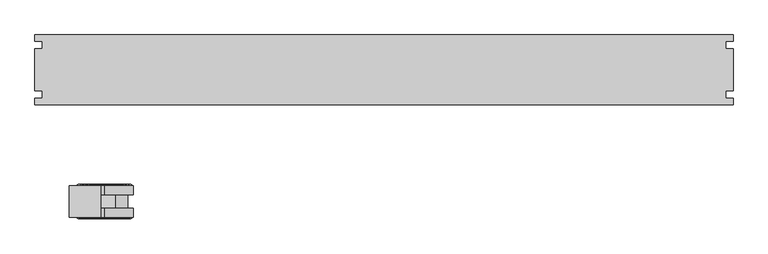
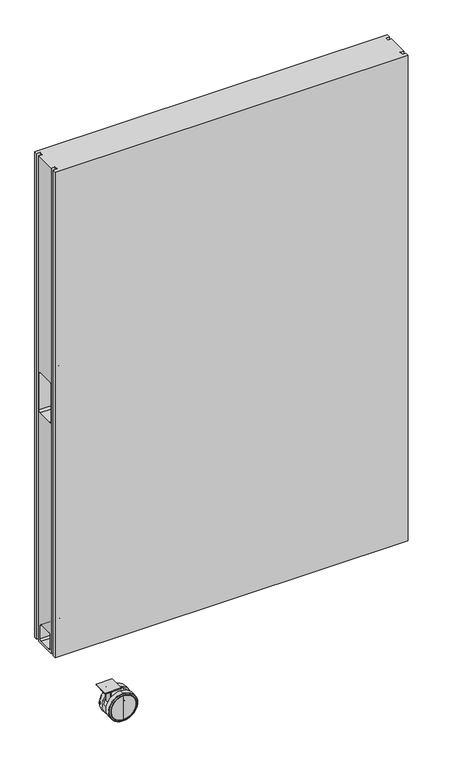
"""IFC4 building model written with IfcOpenShell, lengths in millimetres: furniture geometry, Steelcase Coalesse - Exponents - Storage - Mobile Display Board : Mediaboard."""

from ifc_helpers import new_model, si_unit, point, frame, frame_2d, origin, place, context, project, spatial, polyline, circle_curve, ellipse_curve, trimmed, segment, composite_curve, outline, extrude, source, transform, mapped, element, save
from ifc_brep_helpers import plane_surface, cylinder_surface, revolved_surface, advanced_brep


def furniture_0eeaa3e6(model_context):
    return source(origin(), model_context, "Body", "SolidModel", [
        advanced_brep(
        [(1219.2, 231.2568925, 1928.6982), (0.0, 231.2568925, 1928.6982), (0.0, 219.8268877, 1928.6982), (12.7000004, 219.8268877, 1928.6982), (12.7000004, 207.2716584, 1928.6982), (0.0, 207.2716584, 1928.6982), (0.0, 133.3221024, 1928.6982), (12.7000004, 133.3221024, 1928.6982), (12.7000004, 120.7668731, 1928.6982), (0.0, 120.7668731, 1928.6982), (0.0, 109.3368683, 1928.6982), (1219.2, 109.3368683, 1928.6982), (1219.2, 120.7668731, 1928.6982), (1206.4999996, 120.7668731, 1928.6982), (1206.4999996, 133.3221024, 1928.6982), (1219.2, 133.3221024, 1928.6982), (1219.2, 207.2716584, 1928.6982), (1206.4999996, 207.2716584, 1928.6982), (1206.4999996, 219.8268877, 1928.6982), (1219.2, 219.8268877, 1928.6982), (1219.2, 231.2568925, 155.2702), (1219.2, 219.8268877, 155.2702), (1206.4999996, 219.8268877, 155.2702), (1206.4999996, 207.2716584, 155.2702), (1219.2, 207.2716584, 155.2702), (1219.2, 133.3221024, 155.2702), (1206.4999996, 133.3221024, 155.2702), (1206.4999996, 120.7668731, 155.2702), (1219.2, 120.7668731, 155.2702), (1219.2, 109.3368683, 155.2702), (0.0, 109.3368683, 155.2702), (0.0, 120.7668731, 155.2702), (12.7000004, 120.7668731, 155.2702), (12.7000004, 133.3221024, 155.2702), (0.0, 133.3221024, 155.2702), (0.0, 207.2716584, 155.2702), (12.7000004, 207.2716584, 155.2702), (12.7000004, 219.8268877, 155.2702), (0.0, 219.8268877, 155.2702), (0.0, 231.2568925, 155.2702), (0.0, 198.8718925, 1140.9828993), (0.0, 141.7219046, 1140.9828993), (0.0, 135.3719046, 1134.6328993), (0.0, 135.3719046, 1001.2829477), (0.0, 141.7219046, 994.9329477), (0.0, 198.8718925, 994.9329477), (0.0, 205.2218925, 1001.2829477), (0.0, 205.2218925, 1134.6328993), (0.0, 198.9415891, 216.4334037), (0.0, 192.5915891, 222.7834037), (0.0, 147.5065806, 222.7834037), (0.0, 141.1565806, 216.4334037), (0.0, 141.1565806, 170.3832), (0.0, 147.5065806, 164.0332), (0.0, 192.5915891, 164.0332), (0.0, 198.9415891, 170.3832), (1219.2, 141.7219046, 1140.9828993), (1219.2, 198.8718925, 1140.9828993), (1219.2, 205.2218925, 1134.6328993), (1219.2, 205.2218925, 1001.2829477), (1219.2, 198.8718925, 994.9329477), (1219.2, 141.7219046, 994.9329477), (1219.2, 135.3719046, 1001.2829477), (1219.2, 135.3719046, 1134.6328993), (1219.2, 192.5915891, 222.7834037), (1219.2, 198.9415891, 216.4334037), (1219.2, 198.9415891, 170.3832), (1219.2, 192.5915891, 164.0332), (1219.2, 147.5065806, 164.0332), (1219.2, 141.1565806, 170.3832), (1219.2, 141.1565806, 216.4334037), (1219.2, 147.5065806, 222.7834037), (1149.35, 141.7219046, 1140.9828993), (1149.35, 135.3719046, 1134.6328993), (1149.35, 135.3719046, 1001.2829477), (1149.35, 141.7219046, 994.9329477), (1149.35, 198.8718925, 994.9329477), (1149.35, 205.2218925, 1001.2829477), (1149.35, 205.2218925, 1134.6328993), (1149.35, 198.8718925, 1140.9828993), (1149.35, 192.5915891, 222.7834037), (1149.35, 147.5065806, 222.7834037), (1149.35, 141.1565806, 216.4334037), (1149.35, 141.1565806, 170.3832), (1149.35, 147.5065806, 164.0332), (1149.35, 192.5915891, 164.0332), (1149.35, 198.9415891, 170.3832), (1149.35, 198.9415891, 216.4334037), (69.85, 141.7219046, 1140.9828993), (69.85, 198.8718925, 1140.9828993), (69.85, 205.2218925, 1134.6328993), (69.85, 205.2218925, 1001.2829477), (69.85, 198.8718925, 994.9329477), (69.85, 141.7219046, 994.9329477), (69.85, 135.3719046, 1001.2829477), (69.85, 135.3719046, 1134.6328993), (69.85, 192.5915891, 222.7834037), (69.85, 198.9415891, 216.4334037), (69.85, 198.9415891, 170.3832), (69.85, 192.5915891, 164.0332), (69.85, 147.5065806, 164.0332), (69.85, 141.1565806, 170.3832), (69.85, 141.1565806, 216.4334037), (69.85, 147.5065806, 222.7834037)],
        [
            (0, 1),
            (1, 2),
            (2, 3),
            (3, 4),
            (4, 5),
            (5, 6),
            (6, 7),
            (7, 8),
            (8, 9),
            (9, 10),
            (10, 11),
            (11, 12),
            (12, 13),
            (13, 14),
            (14, 15),
            (15, 16),
            (16, 17),
            (17, 18),
            (18, 19),
            (19, 0),
            (20, 21),
            (21, 22),
            (22, 23),
            (23, 24),
            (24, 25),
            (25, 26),
            (26, 27),
            (27, 28),
            (28, 29),
            (29, 30),
            (30, 31),
            (31, 32),
            (32, 33),
            (33, 34),
            (34, 35),
            (35, 36),
            (36, 37),
            (37, 38),
            (38, 39),
            (39, 20),
            (0, 20),
            (39, 1),
            (38, 2),
            (37, 3),
            (36, 4),
            (35, 5),
            (34, 6),
            (40, 41),
            (41, 42, circle_curve(frame((0.0, 141.7219046, 1134.6328993), z_axis=(1.0, 0.0, 0.0), x_axis=(0.0, 1.0, 0.0)), 6.35)),
            (42, 43),
            (43, 44, circle_curve(frame((0.0, 141.7219046, 1001.2829477), z_axis=(1.0, 0.0, 0.0), x_axis=(0.0, 1.0, 0.0)), 6.35)),
            (44, 45),
            (45, 46, circle_curve(frame((0.0, 198.8718925, 1001.2829477), z_axis=(1.0, 0.0, 0.0), x_axis=(0.0, 1.0, 0.0)), 6.35)),
            (46, 47),
            (47, 40, circle_curve(frame((0.0, 198.8718925, 1134.6328993), z_axis=(1.0, 0.0, 0.0), x_axis=(0.0, 1.0, 0.0)), 6.35)),
            (48, 49, circle_curve(frame((0.0, 192.5915891, 216.4334037), z_axis=(1.0, 0.0, 0.0), x_axis=(0.0, 1.0, 0.0)), 6.35)),
            (49, 50),
            (50, 51, circle_curve(frame((0.0, 147.5065806, 216.4334037), z_axis=(1.0, 0.0, 0.0), x_axis=(0.0, 1.0, 0.0)), 6.35)),
            (51, 52),
            (52, 53, circle_curve(frame((0.0, 147.5065806, 170.3832), z_axis=(1.0, 0.0, 0.0), x_axis=(0.0, 1.0, 0.0)), 6.35)),
            (53, 54),
            (54, 55, circle_curve(frame((0.0, 192.5915891, 170.3832), z_axis=(1.0, 0.0, 0.0), x_axis=(0.0, 1.0, 0.0)), 6.35)),
            (55, 48),
            (33, 7),
            (32, 8),
            (31, 9),
            (30, 10),
            (29, 11),
            (28, 12),
            (27, 13),
            (26, 14),
            (25, 15),
            (24, 16),
            (56, 57),
            (57, 58, circle_curve(frame((1219.2, 198.8718925, 1134.6328993), z_axis=(-1.0, 0.0, 0.0), x_axis=(0.0, 1.0, 0.0)), 6.35)),
            (58, 59),
            (59, 60, circle_curve(frame((1219.2, 198.8718925, 1001.2829477), z_axis=(-1.0, 0.0, 0.0), x_axis=(0.0, 1.0, 0.0)), 6.35)),
            (60, 61),
            (61, 62, circle_curve(frame((1219.2, 141.7219046, 1001.2829477), z_axis=(-1.0, 0.0, 0.0), x_axis=(0.0, 1.0, 0.0)), 6.35)),
            (62, 63),
            (63, 56, circle_curve(frame((1219.2, 141.7219046, 1134.6328993), z_axis=(-1.0, 0.0, 0.0), x_axis=(0.0, 1.0, 0.0)), 6.35)),
            (64, 65, circle_curve(frame((1219.2, 192.5915891, 216.4334037), z_axis=(-1.0, 0.0, 0.0), x_axis=(0.0, 1.0, 0.0)), 6.35)),
            (65, 66),
            (66, 67, circle_curve(frame((1219.2, 192.5915891, 170.3832), z_axis=(-1.0, 0.0, 0.0), x_axis=(0.0, 1.0, 0.0)), 6.35)),
            (67, 68),
            (68, 69, circle_curve(frame((1219.2, 147.5065806, 170.3832), z_axis=(-1.0, 0.0, 0.0), x_axis=(0.0, 1.0, 0.0)), 6.35)),
            (69, 70),
            (70, 71, circle_curve(frame((1219.2, 147.5065806, 216.4334037), z_axis=(-1.0, 0.0, 0.0), x_axis=(0.0, 1.0, 0.0)), 6.35)),
            (71, 64),
            (23, 17),
            (22, 18),
            (21, 19),
            (72, 73, circle_curve(frame((1149.35, 141.7219046, 1134.6328993), z_axis=(1.0, 0.0, 0.0), x_axis=(0.0, 1.0, 0.0)), 6.35)),
            (73, 74),
            (74, 75, circle_curve(frame((1149.35, 141.7219046, 1001.2829477), z_axis=(1.0, 0.0, 0.0), x_axis=(0.0, 1.0, 0.0)), 6.35)),
            (75, 76),
            (76, 77, circle_curve(frame((1149.35, 198.8718925, 1001.2829477), z_axis=(1.0, 0.0, 0.0), x_axis=(0.0, 1.0, 0.0)), 6.35)),
            (77, 78),
            (78, 79, circle_curve(frame((1149.35, 198.8718925, 1134.6328993), z_axis=(1.0, 0.0, 0.0), x_axis=(0.0, 1.0, 0.0)), 6.35)),
            (79, 72),
            (80, 81),
            (81, 82, circle_curve(frame((1149.35, 147.5065806, 216.4334037), z_axis=(1.0, 0.0, 0.0), x_axis=(0.0, 1.0, 0.0)), 6.35)),
            (82, 83),
            (83, 84, circle_curve(frame((1149.35, 147.5065806, 170.3832), z_axis=(1.0, 0.0, 0.0), x_axis=(0.0, 1.0, 0.0)), 6.35)),
            (84, 85),
            (85, 86, circle_curve(frame((1149.35, 192.5915891, 170.3832), z_axis=(1.0, 0.0, 0.0), x_axis=(0.0, 1.0, 0.0)), 6.35)),
            (86, 87),
            (87, 80, circle_curve(frame((1149.35, 192.5915891, 216.4334037), z_axis=(1.0, 0.0, 0.0), x_axis=(0.0, 1.0, 0.0)), 6.35)),
            (79, 57),
            (56, 72),
            (78, 58),
            (77, 59),
            (76, 60),
            (75, 61),
            (74, 62),
            (73, 63),
            (87, 65),
            (64, 80),
            (86, 66),
            (85, 67),
            (84, 68),
            (83, 69),
            (82, 70),
            (81, 71),
            (88, 89),
            (89, 90, circle_curve(frame((69.85, 198.8718925, 1134.6328993), z_axis=(-1.0, 0.0, 0.0), x_axis=(0.0, 1.0, 0.0)), 6.35)),
            (90, 91),
            (91, 92, circle_curve(frame((69.85, 198.8718925, 1001.2829477), z_axis=(-1.0, 0.0, 0.0), x_axis=(0.0, 1.0, 0.0)), 6.35)),
            (92, 93),
            (93, 94, circle_curve(frame((69.85, 141.7219046, 1001.2829477), z_axis=(-1.0, 0.0, 0.0), x_axis=(0.0, 1.0, 0.0)), 6.35)),
            (94, 95),
            (95, 88, circle_curve(frame((69.85, 141.7219046, 1134.6328993), z_axis=(-1.0, 0.0, 0.0), x_axis=(0.0, 1.0, 0.0)), 6.35)),
            (96, 97, circle_curve(frame((69.85, 192.5915891, 216.4334037), z_axis=(-1.0, 0.0, 0.0), x_axis=(0.0, 1.0, 0.0)), 6.35)),
            (97, 98),
            (98, 99, circle_curve(frame((69.85, 192.5915891, 170.3832), z_axis=(-1.0, 0.0, 0.0), x_axis=(0.0, 1.0, 0.0)), 6.35)),
            (99, 100),
            (100, 101, circle_curve(frame((69.85, 147.5065806, 170.3832), z_axis=(-1.0, 0.0, 0.0), x_axis=(0.0, 1.0, 0.0)), 6.35)),
            (101, 102),
            (102, 103, circle_curve(frame((69.85, 147.5065806, 216.4334037), z_axis=(-1.0, 0.0, 0.0), x_axis=(0.0, 1.0, 0.0)), 6.35)),
            (103, 96),
            (95, 42),
            (41, 88),
            (94, 43),
            (93, 44),
            (92, 45),
            (91, 46),
            (90, 47),
            (89, 40),
            (103, 50),
            (49, 96),
            (102, 51),
            (101, 52),
            (100, 53),
            (99, 54),
            (98, 55),
            (97, 48),
        ],
        [
            plane_surface(frame((0.0, 231.2568925, 1928.6982), z_axis=(0.0, 0.0, 1.0), x_axis=(-1.0, 0.0, 0.0))),
            plane_surface(frame((0.0, 231.2568925, 155.2702), z_axis=(0.0, 0.0, -1.0), x_axis=(1.0, 0.0, 0.0))),
            plane_surface(frame((1219.2, 231.2568925, 1928.6982), z_axis=(0.0, 1.0, 0.0), x_axis=(0.0, 0.0, -1.0))),
            plane_surface(frame((0.0, 231.2568925, 1928.6982), z_axis=(-1.0, 0.0, 0.0), x_axis=(0.0, 0.0, -1.0))),
            plane_surface(frame((0.0, 219.8268877, 1928.6982), z_axis=(0.0, -1.0, 0.0), x_axis=(0.0, 0.0, -1.0))),
            plane_surface(frame((12.7000004, 219.8268877, 1928.6982), z_axis=(-1.0, 0.0, 0.0), x_axis=(0.0, 0.0, -1.0))),
            plane_surface(frame((12.7000004, 207.2716584, 1928.6982), z_axis=(0.0, 1.0, 0.0), x_axis=(0.0, 0.0, -1.0))),
            plane_surface(frame((0.0, 207.2716584, 1928.6982), z_axis=(-1.0, 0.0, 0.0), x_axis=(0.0, 0.0, -1.0))),
            plane_surface(frame((0.0, 133.3221024, 1928.6982), z_axis=(0.0, -1.0, 0.0), x_axis=(0.0, 0.0, -1.0))),
            plane_surface(frame((12.7000004, 133.3221024, 1928.6982), z_axis=(-1.0, 0.0, 0.0), x_axis=(0.0, 0.0, -1.0))),
            plane_surface(frame((12.7000004, 120.7668731, 1928.6982), z_axis=(0.0, 1.0, 0.0), x_axis=(0.0, 0.0, -1.0))),
            plane_surface(frame((0.0, 120.7668731, 1928.6982), z_axis=(-1.0, 0.0, 0.0), x_axis=(0.0, 0.0, -1.0))),
            plane_surface(frame((0.0, 109.3368683, 1928.6982), z_axis=(0.0, -1.0, 0.0), x_axis=(0.0, 0.0, -1.0))),
            plane_surface(frame((1219.2, 109.3368683, 1928.6982), z_axis=(1.0, 0.0, 0.0), x_axis=(0.0, 0.0, -1.0))),
            plane_surface(frame((1219.2, 120.7668731, 1928.6982), z_axis=(0.0, 1.0, 0.0), x_axis=(0.0, 0.0, -1.0))),
            plane_surface(frame((1206.4999996, 120.7668731, 1928.6982), z_axis=(1.0, 0.0, 0.0), x_axis=(0.0, 0.0, -1.0))),
            plane_surface(frame((1206.4999996, 133.3221024, 1928.6982), z_axis=(0.0, -1.0, 0.0), x_axis=(0.0, 0.0, -1.0))),
            plane_surface(frame((1219.2, 133.3221024, 1928.6982), z_axis=(1.0, 0.0, 0.0), x_axis=(0.0, 0.0, -1.0))),
            plane_surface(frame((1219.2, 207.2716584, 1928.6982), z_axis=(0.0, 1.0, 0.0), x_axis=(0.0, 0.0, -1.0))),
            plane_surface(frame((1206.4999996, 207.2716584, 1928.6982), z_axis=(1.0, 0.0, 0.0), x_axis=(0.0, 0.0, -1.0))),
            plane_surface(frame((1206.4999996, 219.8268877, 1928.6982), z_axis=(0.0, -1.0, 0.0), x_axis=(0.0, 0.0, -1.0))),
            plane_surface(frame((1219.2, 219.8268877, 1928.6982), z_axis=(1.0, 0.0, 0.0), x_axis=(0.0, 0.0, -1.0))),
            plane_surface(frame((1149.35, 198.8718804, 1140.9828993), z_axis=(1.0, 0.0, 0.0), x_axis=(0.0, 1.0, 0.0))),
            plane_surface(frame((1149.35, 141.7219046, 1140.9828993), z_axis=(0.0, 0.0, -1.0), x_axis=(1.0, 0.0, 0.0))),
            revolved_surface(polyline([(1149.35, 205.2218925, 1134.6328993), (1219.2, 205.2218925, 1134.6328993)]), (1219.2, 198.8718925, 1134.6328993), (-1.0, 0.0, 0.0)),
            plane_surface(frame((1149.35, 205.2218925, 1134.6328993), z_axis=(0.0, -1.0, 0.0), x_axis=(1.0, 0.0, 0.0))),
            revolved_surface(polyline([(1149.35, 205.2218925, 1001.2829477), (1219.2, 205.2218925, 1001.2829477)]), (1219.2, 198.8718925, 1001.2829477), (-1.0, 0.0, 0.0)),
            plane_surface(frame((1149.35, 198.8718925, 994.9329477), z_axis=(0.0, 0.0, 1.0), x_axis=(1.0, 0.0, 0.0))),
            revolved_surface(polyline([(1149.35, 148.07190459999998, 1001.2829477), (1219.2, 148.07190459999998, 1001.2829477)]), (1219.2, 141.7219046, 1001.2829477), (-1.0, 0.0, 0.0)),
            plane_surface(frame((1149.35, 135.3719046, 1001.2829477), z_axis=(0.0, 1.0, 0.0), x_axis=(1.0, 0.0, 0.0))),
            revolved_surface(polyline([(1149.35, 148.07190459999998, 1134.6328993), (1219.2, 148.07190459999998, 1134.6328993)]), (1219.2, 141.7219046, 1134.6328993), (-1.0, 0.0, 0.0)),
            revolved_surface(polyline([(1149.35, 198.9415891, 216.4334037), (1219.2, 198.9415891, 216.4334037)]), (1220.4699806, 192.5915891, 216.4334037), (-1.0, 0.0, 0.0)),
            plane_surface(frame((1149.35, 198.9415891, 216.4334037), z_axis=(0.0, -1.0, 0.0), x_axis=(1.0, 0.0, 0.0))),
            revolved_surface(polyline([(1149.35, 198.9415891, 170.3832), (1219.2, 198.9415891, 170.3832)]), (1220.4699806, 192.5915891, 170.3832), (-1.0, 0.0, 0.0)),
            plane_surface(frame((1149.35, 192.5915891, 164.0332), z_axis=(0.0, 0.0, 1.0), x_axis=(1.0, 0.0, 0.0))),
            revolved_surface(polyline([(1149.35, 153.8565806, 170.3832), (1219.2, 153.8565806, 170.3832)]), (1220.4699806, 147.5065806, 170.3832), (-1.0, 0.0, 0.0)),
            plane_surface(frame((1149.35, 141.1565806, 170.3832), z_axis=(0.0, 1.0, 0.0), x_axis=(1.0, 0.0, 0.0))),
            revolved_surface(polyline([(1149.35, 153.8565806, 216.4334037), (1219.2, 153.8565806, 216.4334037)]), (1220.4699806, 147.5065806, 216.4334037), (-1.0, 0.0, 0.0)),
            plane_surface(frame((1149.35, 147.5065806, 222.7834037), z_axis=(0.0, 0.0, -1.0), x_axis=(1.0, 0.0, 0.0))),
            plane_surface(frame((69.85, 148.0719046, 1134.6328993), z_axis=(-1.0, 0.0, 0.0), x_axis=(0.0, 0.0, 1.0))),
            revolved_surface(polyline([(69.85, 148.07190459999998, 1134.6328993), (0.0, 148.07190459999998, 1134.6328993)]), (0.0, 141.7219046, 1134.6328993), (1.0, 0.0, 0.0)),
            plane_surface(frame((69.85, 135.3719046, 1134.6328993), z_axis=(0.0, 1.0, 0.0), x_axis=(-1.0, 0.0, 0.0))),
            revolved_surface(polyline([(69.85, 148.07190459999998, 1001.2829477), (0.0, 148.07190459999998, 1001.2829477)]), (0.0, 141.7219046, 1001.2829477), (1.0, 0.0, 0.0)),
            plane_surface(frame((69.85, 141.7219046, 994.9329477), z_axis=(0.0, 0.0, 1.0), x_axis=(-1.0, 0.0, 0.0))),
            revolved_surface(polyline([(69.85, 205.2218925, 1001.2829477), (0.0, 205.2218925, 1001.2829477)]), (0.0, 198.8718925, 1001.2829477), (1.0, 0.0, 0.0)),
            plane_surface(frame((69.85, 205.2218925, 1001.2829477), z_axis=(0.0, -1.0, 0.0), x_axis=(-1.0, 0.0, 0.0))),
            revolved_surface(polyline([(69.85, 205.2218925, 1134.6328993), (0.0, 205.2218925, 1134.6328993)]), (0.0, 198.8718925, 1134.6328993), (1.0, 0.0, 0.0)),
            plane_surface(frame((69.85, 198.8718925, 1140.9828993), z_axis=(0.0, 0.0, -1.0), x_axis=(-1.0, 0.0, 0.0))),
            plane_surface(frame((69.85, 192.5915891, 222.7834037), z_axis=(0.0, 0.0, -1.0), x_axis=(-1.0, 0.0, 0.0))),
            revolved_surface(polyline([(69.85, 153.8565806, 216.4334037), (0.0, 153.8565806, 216.4334037)]), (0.0, 147.5065806, 216.4334037), (1.0, 0.0, 0.0)),
            plane_surface(frame((69.85, 141.1565806, 216.4334037), z_axis=(0.0, 1.0, 0.0), x_axis=(-1.0, 0.0, 0.0))),
            revolved_surface(polyline([(69.85, 153.8565806, 170.3832), (0.0, 153.8565806, 170.3832)]), (0.0, 147.5065806, 170.3832), (1.0, 0.0, 0.0)),
            plane_surface(frame((69.85, 147.5065806, 164.0332), z_axis=(0.0, 0.0, 1.0), x_axis=(-1.0, 0.0, 0.0))),
            revolved_surface(polyline([(69.85, 198.9415891, 170.3832), (0.0, 198.9415891, 170.3832)]), (0.0, 192.5915891, 170.3832), (1.0, 0.0, 0.0)),
            plane_surface(frame((69.85, 198.9415891, 170.3832), z_axis=(0.0, -1.0, 0.0), x_axis=(-1.0, 0.0, 0.0))),
            revolved_surface(polyline([(69.85, 198.9415891, 216.4334037), (0.0, 198.9415891, 216.4334037)]), (0.0, 192.5915891, 216.4334037), (1.0, 0.0, 0.0)),
        ],
        [
            (0, [[1, 2, 3, 4, 5, 6, 7, 8, 9, 10, 11, 12, 13, 14, 15, 16, 17, 18, 19, 20]]),
            (1, [[21, 22, 23, 24, 25, 26, 27, 28, 29, 30, 31, 32, 33, 34, 35, 36, 37, 38, 39, 40]]),
            (2, [[-1, 41, -40, 42]]),
            (3, [[-2, -42, -39, 43]]),
            (4, [[-3, -43, -38, 44]]),
            (5, [[-4, -44, -37, 45]]),
            (6, [[-5, -45, -36, 46]]),
            (7, [[-6, -46, -35, 47], [48, 49, 50, 51, 52, 53, 54, 55], [56, 57, 58, 59, 60, 61, 62, 63]]),
            (8, [[-7, -47, -34, 64]]),
            (9, [[-8, -64, -33, 65]]),
            (10, [[-9, -65, -32, 66]]),
            (11, [[-10, -66, -31, 67]]),
            (12, [[-11, -67, -30, 68]]),
            (13, [[-12, -68, -29, 69]]),
            (14, [[-13, -69, -28, 70]]),
            (15, [[-14, -70, -27, 71]]),
            (16, [[-15, -71, -26, 72]]),
            (17, [[-16, -72, -25, 73], [74, 75, 76, 77, 78, 79, 80, 81], [82, 83, 84, 85, 86, 87, 88, 89]]),
            (18, [[-17, -73, -24, 90]]),
            (19, [[-18, -90, -23, 91]]),
            (20, [[-19, -91, -22, 92]]),
            (21, [[-20, -92, -21, -41]]),
            (22, [[93, 94, 95, 96, 97, 98, 99, 100]]),
            (22, [[101, 102, 103, 104, 105, 106, 107, 108]]),
            (23, [[-100, 109, -74, 110]]),
            (24, [[-99, 111, -75, -109]]),
            (25, [[-98, 112, -76, -111]]),
            (26, [[-97, 113, -77, -112]]),
            (27, [[-96, 114, -78, -113]]),
            (28, [[-95, 115, -79, -114]]),
            (29, [[-94, 116, -80, -115]]),
            (30, [[-93, -110, -81, -116]]),
            (31, [[-108, 117, -82, 118]]),
            (32, [[-107, 119, -83, -117]]),
            (33, [[-106, 120, -84, -119]]),
            (34, [[-105, 121, -85, -120]]),
            (35, [[-104, 122, -86, -121]]),
            (36, [[-103, 123, -87, -122]]),
            (37, [[-102, 124, -88, -123]]),
            (38, [[-101, -118, -89, -124]]),
            (39, [[125, 126, 127, 128, 129, 130, 131, 132]]),
            (39, [[133, 134, 135, 136, 137, 138, 139, 140]]),
            (40, [[-132, 141, -49, 142]]),
            (41, [[-131, 143, -50, -141]]),
            (42, [[-130, 144, -51, -143]]),
            (43, [[-129, 145, -52, -144]]),
            (44, [[-128, 146, -53, -145]]),
            (45, [[-127, 147, -54, -146]]),
            (46, [[-126, 148, -55, -147]]),
            (47, [[-125, -142, -48, -148]]),
            (48, [[-140, 149, -57, 150]]),
            (49, [[-139, 151, -58, -149]]),
            (50, [[-138, 152, -59, -151]]),
            (51, [[-137, 153, -60, -152]]),
            (52, [[-136, 154, -61, -153]]),
            (53, [[-135, 155, -62, -154]]),
            (54, [[-134, 156, -63, -155]]),
            (55, [[-133, -150, -56, -156]]),
        ],
    ),
        advanced_brep(
        [(121.6278984, -28.9699484, 93.7248565), (121.6278984, -28.9699484, 7.16417), (121.6278984, -28.9699484, 50.4445132), (121.6278984, -29.195866, 95.950615), (121.6278984, -29.195866, 4.9384115), (121.6278984, -31.890984, 99.0695917), (121.6278984, -31.890984, 1.8194348), (121.6278984, -31.890984, 100.8890265), (121.6278984, -31.890984, 0.0), (121.6278984, -47.5881484, 100.8890265), (121.6278984, -47.5881484, 0.0), (121.6278984, -47.5881484, 67.9452274), (121.6278984, -47.5881484, 32.943799), (121.6278984, -51.5441984, 67.9452274), (121.6278984, -51.5441984, 32.943799), (121.6278984, -51.5441984, 50.4445132)],
        [
            (0, 1, circle_curve(frame((121.6278984, -28.9699484, 50.4445132), z_axis=(0.0, 1.0, 0.0), x_axis=(0.0, 0.0, -1.0)), 43.2803433)),
            (1, 2),
            (2, 0),
            (1, 0, circle_curve(frame((121.6278984, -28.9699484, 50.4445132), z_axis=(0.0, 1.0, 0.0), x_axis=(0.0, 0.0, -1.0)), 43.2803433)),
            (3, 4, circle_curve(frame((121.6278984, -29.195866, 50.4445132), z_axis=(0.0, 1.0, 0.0), x_axis=(0.0, 0.0, -1.0)), 45.5061018)),
            (4, 1, circle_curve(frame((121.6278984, -40.0470836, 7.16417), z_axis=(1.0, 0.0, 0.0), x_axis=(0.0, 1.0, 0.0)), 11.0771352)),
            (0, 3, circle_curve(frame((121.6278984, -40.0470836, 93.7248565), z_axis=(1.0, 0.0, 0.0), x_axis=(0.0, 1.0, 0.0)), 11.0771352)),
            (4, 3, circle_curve(frame((121.6278984, -29.195866, 50.4445132), z_axis=(0.0, 1.0, 0.0), x_axis=(0.0, 0.0, -1.0)), 45.5061018)),
            (5, 6, circle_curve(frame((121.6278984, -31.890984, 50.4445132), z_axis=(0.0, 1.0, 0.0), x_axis=(0.0, 0.0, -1.0)), 48.6250784)),
            (6, 4, circle_curve(frame((121.6278984, -33.3293578, 5.7862568), z_axis=(1.0, 0.0, 0.0), x_axis=(0.0, 1.0, 0.0)), 4.2195493)),
            (3, 5, circle_curve(frame((121.6278984, -33.3293578, 95.1027696), z_axis=(1.0, 0.0, 0.0), x_axis=(0.0, 1.0, 0.0)), 4.2195493)),
            (6, 5, circle_curve(frame((121.6278984, -31.890984, 50.4445132), z_axis=(0.0, 1.0, 0.0), x_axis=(0.0, 0.0, -1.0)), 48.6250784)),
            (7, 8, circle_curve(frame((121.6278984, -31.890984, 50.4445132), z_axis=(0.0, 1.0, 0.0), x_axis=(0.0, 0.0, -1.0)), 50.4445132)),
            (8, 6),
            (5, 7),
            (8, 7, circle_curve(frame((121.6278984, -31.890984, 50.4445132), z_axis=(0.0, 1.0, 0.0), x_axis=(0.0, 0.0, -1.0)), 50.4445132)),
            (9, 10, circle_curve(frame((121.6278984, -47.5881484, 50.4445132), z_axis=(0.0, 1.0, 0.0), x_axis=(0.0, 0.0, -1.0)), 50.4445132)),
            (10, 8),
            (7, 9),
            (10, 9, circle_curve(frame((121.6278984, -47.5881484, 50.4445132), z_axis=(0.0, 1.0, 0.0), x_axis=(0.0, 0.0, -1.0)), 50.4445132)),
            (11, 12, circle_curve(frame((121.6278984, -47.5881484, 50.4445132), z_axis=(0.0, 1.0, 0.0), x_axis=(0.0, 0.0, -1.0)), 17.5007142)),
            (12, 10),
            (9, 11),
            (12, 11, circle_curve(frame((121.6278984, -47.5881484, 50.4445132), z_axis=(0.0, 1.0, 0.0), x_axis=(0.0, 0.0, -1.0)), 17.5007142)),
            (13, 14, circle_curve(frame((121.6278984, -51.5441984, 50.4445132), z_axis=(0.0, 1.0, 0.0), x_axis=(0.0, 0.0, -1.0)), 17.5007142)),
            (14, 12),
            (11, 13),
            (14, 13, circle_curve(frame((121.6278984, -51.5441984, 50.4445132), z_axis=(0.0, 1.0, 0.0), x_axis=(0.0, 0.0, -1.0)), 17.5007142)),
            (15, 14),
            (13, 15),
        ],
        [
            plane_surface(frame((121.6278984, -28.9699484, 50.4445132), z_axis=(0.0, 1.0, 0.0), x_axis=(0.0, 0.0, -1.0))),
            revolved_surface(trimmed(ellipse_curve(frame((121.6278984, -40.0470836, 7.16417), z_axis=(-1.0, 0.0, 0.0), x_axis=(0.0, 1.0, 0.0)), 11.0771352, 11.0771352), [point((121.6278984, -28.9699484, 7.16417))], [point((121.6278984, -29.195866, 4.9384115))], True, "CARTESIAN"), (121.6278984, -32.3354484, 50.4445132), (0.0, -1.0, 0.0)),
            revolved_surface(trimmed(ellipse_curve(frame((121.6278984, -33.3293578, 5.7862568), z_axis=(-1.0, 0.0, 0.0), x_axis=(0.0, 1.0, 0.0)), 4.2195493, 4.2195493), [point((121.6278984, -29.195866, 4.9384115))], [point((121.6278984, -31.890984, 1.8194348))], True, "CARTESIAN"), (121.6278984, -32.3354484, 50.4445132), (0.0, -1.0, 0.0)),
            plane_surface(frame((121.6278984, -31.890984, 50.4445132), z_axis=(0.0, 1.0, 0.0), x_axis=(0.0, 0.0, -1.0))),
            cylinder_surface(frame((121.6278984, -32.3354484, 50.4445132), z_axis=(0.0, -1.0, 0.0), x_axis=(0.0, 0.0, -1.0)), 50.4445132),
            plane_surface(frame((121.6278984, -47.5881484, 50.4445132), z_axis=(0.0, -1.0, 0.0), x_axis=(0.0, 0.0, -1.0))),
            cylinder_surface(frame((121.6278984, -32.3354484, 50.4445132), z_axis=(0.0, -1.0, 0.0), x_axis=(0.0, 0.0, -1.0)), 17.5007142),
            plane_surface(frame((121.6278984, -51.5441984, 50.4445132), z_axis=(0.0, -1.0, 0.0), x_axis=(0.0, 0.0, -1.0))),
        ],
        [
            (0, [[1, 2, 3]]),
            (0, [[4, -3, -2]]),
            (1, [[5, 6, -1, 7]]),
            (1, [[8, -7, -4, -6]]),
            (2, [[9, 10, -5, 11]]),
            (2, [[12, -11, -8, -10]]),
            (3, [[13, 14, -9, 15]]),
            (3, [[16, -15, -12, -14]]),
            (4, [[17, 18, -13, 19]]),
            (4, [[20, -19, -16, -18]]),
            (5, [[21, 22, -17, 23]]),
            (5, [[24, -23, -20, -22]]),
            (6, [[25, 26, -21, 27]]),
            (6, [[28, -27, -24, -26]]),
            (7, [[29, -25, 30]]),
            (7, [[-30, -28, -29]]),
        ],
    ),
        extrude(outline(composite_curve([segment(polyline([(51.3715027, 152.4507984), (28.4632097, 152.4507984)]), True, "CONTINUOUS"), segment(trimmed(circle_curve(frame_2d((55.7451933, 120.0457245)), 42.360305), [point((28.4632097, 152.4507984))], [point((92.46506, 141.1655453))], False, "CARTESIAN"), True, "CONTINUOUS"), segment(trimmed(circle_curve(frame_2d((52.6047711, 122.1125998)), 44.1798299), [point((92.46506, 141.1655453))], [point((51.3715027, 77.9499865))], False, "CARTESIAN"), True, "CONTINUOUS"), segment(polyline([(51.3715027, 77.9499865), (51.3715027, 152.4507984)]), True, "CONTINUOUS")], self_intersect=False)), frame((0.0, -71.1936132, 0.0), z_axis=(0.0, 1.0, 0.0), x_axis=(0.0, 0.0, 1.0)), (0.0, 0.0, 1.0), 23.6054648),
        extrude(outline(composite_curve([segment(trimmed(circle_curve(frame_2d((87.284686, -59.3908808)), 7.6088517), [point((87.284686, -51.7820291))], [point((87.284686, -66.9997325))], False, "CARTESIAN"), True, "CONTINUOUS"), segment(trimmed(circle_curve(frame_2d((87.284686, -59.3908808)), 7.6088517), [point((87.284686, -66.9997325))], [point((87.284686, -51.7820291))], False, "CARTESIAN"), True, "CONTINUOUS")], self_intersect=False)), frame((0.0, 0.0, 71.2879049), z_axis=(0.0, 0.0, 1.0), x_axis=(1.0, 0.0, 0.0)), (0.0, 0.0, 1.0), 48.3206977),
        extrude(outline(polyline([(114.9222984, -86.9387325), (59.8042984, -86.9387325), (59.8042984, -31.8207325), (114.9222984, -31.8207325), (114.9222984, -86.9387325)])), frame((0.0, 0.0, 119.6086027), z_axis=(0.0, 0.0, 1.0), x_axis=(1.0, 0.0, 0.0)), (0.0, 0.0, 1.0), 3.302),
        advanced_brep(
        [(121.6278984, -67.2375632, 67.9452274), (121.6278984, -67.2375632, 32.943799), (121.6278984, -67.2375632, 50.4445132), (121.6278984, -71.1936132, 67.9452274), (121.6278984, -71.1936132, 32.943799), (121.6278984, -71.1936132, 100.8890265), (121.6278984, -71.1936132, 0.0), (121.6278984, -86.8907776, 100.8890265), (121.6278984, -86.8907776, 0.0), (121.6278984, -86.8907776, 99.0695917), (121.6278984, -86.8907776, 1.8194348), (121.6278984, -89.5858956, 95.950615), (121.6278984, -89.5858956, 4.9384115), (121.6278984, -89.8118132, 93.7248565), (121.6278984, -89.8118132, 7.16417), (121.6278984, -89.8118132, 50.4445132)],
        [
            (0, 1, circle_curve(frame((121.6278984, -67.2375632, 50.4445132), z_axis=(0.0, 1.0, 0.0), x_axis=(0.0, 0.0, -1.0)), 17.5007142)),
            (1, 2),
            (2, 0),
            (1, 0, circle_curve(frame((121.6278984, -67.2375632, 50.4445132), z_axis=(0.0, 1.0, 0.0), x_axis=(0.0, 0.0, -1.0)), 17.5007142)),
            (3, 4, circle_curve(frame((121.6278984, -71.1936132, 50.4445132), z_axis=(0.0, 1.0, 0.0), x_axis=(0.0, 0.0, -1.0)), 17.5007142)),
            (4, 1),
            (0, 3),
            (4, 3, circle_curve(frame((121.6278984, -71.1936132, 50.4445132), z_axis=(0.0, 1.0, 0.0), x_axis=(0.0, 0.0, -1.0)), 17.5007142)),
            (5, 6, circle_curve(frame((121.6278984, -71.1936132, 50.4445132), z_axis=(0.0, 1.0, 0.0), x_axis=(0.0, 0.0, -1.0)), 50.4445132)),
            (6, 4),
            (3, 5),
            (6, 5, circle_curve(frame((121.6278984, -71.1936132, 50.4445132), z_axis=(0.0, 1.0, 0.0), x_axis=(0.0, 0.0, -1.0)), 50.4445132)),
            (7, 8, circle_curve(frame((121.6278984, -86.8907776, 50.4445132), z_axis=(0.0, 1.0, 0.0), x_axis=(0.0, 0.0, -1.0)), 50.4445132)),
            (8, 6),
            (5, 7),
            (8, 7, circle_curve(frame((121.6278984, -86.8907776, 50.4445132), z_axis=(0.0, 1.0, 0.0), x_axis=(0.0, 0.0, -1.0)), 50.4445132)),
            (9, 10, circle_curve(frame((121.6278984, -86.8907776, 50.4445132), z_axis=(0.0, 1.0, 0.0), x_axis=(0.0, 0.0, -1.0)), 48.6250784)),
            (10, 8),
            (7, 9),
            (10, 9, circle_curve(frame((121.6278984, -86.8907776, 50.4445132), z_axis=(0.0, 1.0, 0.0), x_axis=(0.0, 0.0, -1.0)), 48.6250784)),
            (11, 12, circle_curve(frame((121.6278984, -89.5858956, 50.4445132), z_axis=(0.0, 1.0, 0.0), x_axis=(0.0, 0.0, -1.0)), 45.5061018)),
            (12, 10, circle_curve(frame((121.6278984, -85.4524038, 5.7862568), z_axis=(1.0, 0.0, 0.0), x_axis=(0.0, -1.0, 0.0)), 4.2195493)),
            (9, 11, circle_curve(frame((121.6278984, -85.4524038, 95.1027696), z_axis=(1.0, 0.0, 0.0), x_axis=(0.0, -1.0, 0.0)), 4.2195493)),
            (12, 11, circle_curve(frame((121.6278984, -89.5858956, 50.4445132), z_axis=(0.0, 1.0, 0.0), x_axis=(0.0, 0.0, -1.0)), 45.5061018)),
            (13, 14, circle_curve(frame((121.6278984, -89.8118132, 50.4445132), z_axis=(0.0, 1.0, 0.0), x_axis=(0.0, 0.0, -1.0)), 43.2803433)),
            (14, 12, circle_curve(frame((121.6278984, -78.734678, 7.16417), z_axis=(1.0, 0.0, 0.0), x_axis=(0.0, -1.0, 0.0)), 11.0771352)),
            (11, 13, circle_curve(frame((121.6278984, -78.734678, 93.7248565), z_axis=(1.0, 0.0, 0.0), x_axis=(0.0, -1.0, 0.0)), 11.0771352)),
            (14, 13, circle_curve(frame((121.6278984, -89.8118132, 50.4445132), z_axis=(0.0, 1.0, 0.0), x_axis=(0.0, 0.0, -1.0)), 43.2803433)),
            (15, 14),
            (13, 15),
        ],
        [
            plane_surface(frame((121.6278984, -67.2375632, 50.4445132), z_axis=(0.0, 1.0, 0.0), x_axis=(0.0, 0.0, -1.0))),
            cylinder_surface(frame((121.6278984, -86.4463132, 50.4445132), z_axis=(0.0, -1.0, 0.0), x_axis=(0.0, 0.0, -1.0)), 17.5007142),
            plane_surface(frame((121.6278984, -71.1936132, 50.4445132), z_axis=(0.0, 1.0, 0.0), x_axis=(0.0, 0.0, -1.0))),
            cylinder_surface(frame((121.6278984, -86.4463132, 50.4445132), z_axis=(0.0, -1.0, 0.0), x_axis=(0.0, 0.0, -1.0)), 50.4445132),
            plane_surface(frame((121.6278984, -86.8907776, 50.4445132), z_axis=(0.0, -1.0, 0.0), x_axis=(0.0, 0.0, -1.0))),
            revolved_surface(trimmed(ellipse_curve(frame((121.6278984, -85.4524038, 5.7862568), z_axis=(-1.0, 0.0, 0.0), x_axis=(0.0, -1.0, 0.0)), 4.2195493, 4.2195493), [point((121.6278984, -86.8907776, 1.8194348))], [point((121.6278984, -89.5858956, 4.9384115))], True, "CARTESIAN"), (121.6278984, -86.4463132, 50.4445132), (0.0, -1.0, 0.0)),
            revolved_surface(trimmed(ellipse_curve(frame((121.6278984, -78.734678, 7.16417), z_axis=(-1.0, 0.0, 0.0), x_axis=(0.0, -1.0, 0.0)), 11.0771352, 11.0771352), [point((121.6278984, -89.5858956, 4.9384115))], [point((121.6278984, -89.8118132, 7.16417))], True, "CARTESIAN"), (121.6278984, -86.4463132, 50.4445132), (0.0, -1.0, 0.0)),
            plane_surface(frame((121.6278984, -89.8118132, 50.4445132), z_axis=(0.0, -1.0, 0.0), x_axis=(0.0, 0.0, -1.0))),
        ],
        [
            (0, [[1, 2, 3]]),
            (0, [[4, -3, -2]]),
            (1, [[5, 6, -1, 7]]),
            (1, [[8, -7, -4, -6]]),
            (2, [[9, 10, -5, 11]]),
            (2, [[12, -11, -8, -10]]),
            (3, [[13, 14, -9, 15]]),
            (3, [[16, -15, -12, -14]]),
            (4, [[17, 18, -13, 19]]),
            (4, [[20, -19, -16, -18]]),
            (5, [[21, 22, -17, 23]]),
            (5, [[24, -23, -20, -22]]),
            (6, [[25, 26, -21, 27]]),
            (6, [[28, -27, -24, -26]]),
            (7, [[29, -25, 30]]),
            (7, [[-30, -28, -29]]),
        ],
    ),
    ])


if __name__ == "__main__":
    model = new_model("IFC4")
    model_context = context("Model", 3, world=origin())
    ifc_project = project(units=[si_unit("LENGTHUNIT", "METRE", prefix="MILLI")], contexts=[model_context])
    site = spatial("IfcSite", under=ifc_project)
    building = spatial("IfcBuilding", under=site)
    placement = place(None, origin())
    furniture_shape = furniture_0eeaa3e6(model_context)
    element("IfcFurniture", 1, ObjectType="Steelcase Coalesse - Exponents - Storage - Mobile Display Board : Mediaboard", at=placement, inside=building, context=model_context, shape_type="MappedRepresentation", body=[
        mapped(furniture_shape, transform((0.0, 0.0, 0.0), x_axis=(1.0, 0.0, 0.0), y_axis=(0.0, 1.0, 0.0), z_axis=(0.0, 0.0, 1.0))),
    ])
    save(model, "model.ifc")
